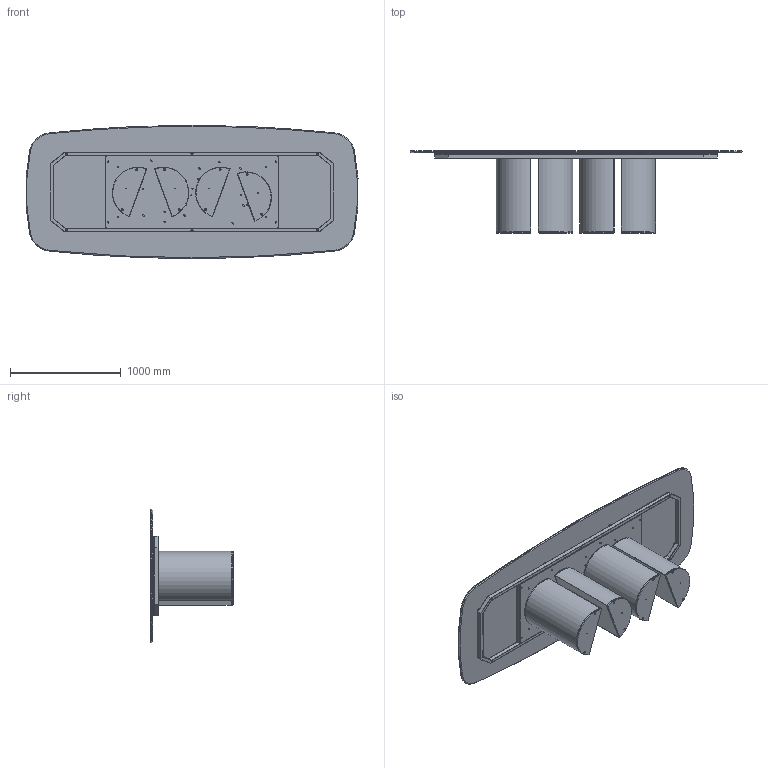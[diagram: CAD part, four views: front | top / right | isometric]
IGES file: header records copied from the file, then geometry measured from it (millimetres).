
Start section: SolidWorks IGES file using analytic representation for surfaces
Global section: file name: Y:\eforma\TECNICO\SOLIDWORKS\E-FORMA\1-TAVOLI\PLAI\02 parts\PL44C.IGS; native system: SolidWorks 2022; preprocessor: SolidWorks 2022; author: eforma.tech; date: 240807.155748; units: millimetre
Bounding box: 2991.72 x 740 x 1200 mm (x, y, z)
Volume: 70889155.6 mm3; surface area: 25255967.1 mm2
Topology: 64 solids, 64 shells, 1361 faces, 3093 edges, 1830 vertices
Faces by surface type: revolution 791, plane 570
